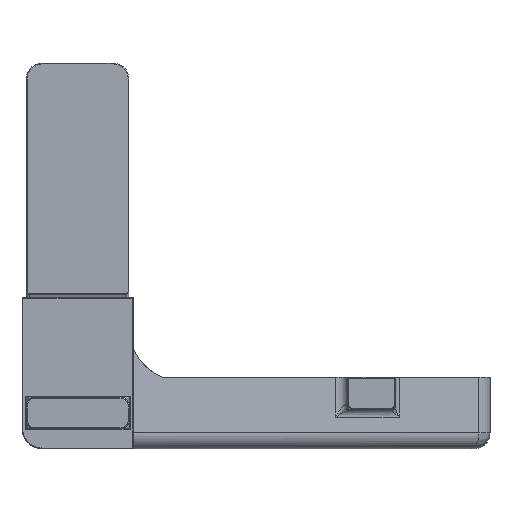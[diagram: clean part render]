
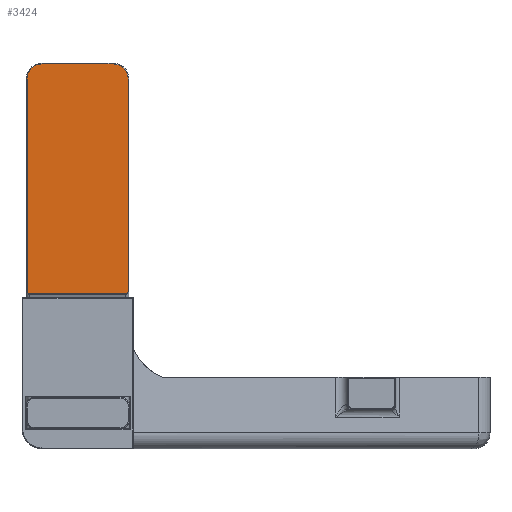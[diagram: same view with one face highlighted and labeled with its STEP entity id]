
A CAD part, front view. The second image highlights one B-rep face of the part: STEP entity #3424.
In plain terms, the highlighted planar face has unit normal (0, -1, 0).
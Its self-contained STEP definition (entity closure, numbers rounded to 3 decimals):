
#144=PLANE('',#3750);
#284=CIRCLE('',#3728,9.5);
#288=CIRCLE('',#3734,9.5);
#603=LINE('',#6029,#947);
#604=LINE('',#6039,#948);
#606=LINE('',#6051,#950);
#614=LINE('',#6089,#958);
#947=VECTOR('',#4588,10.);
#948=VECTOR('',#4601,10.);
#950=VECTOR('',#4617,10.);
#958=VECTOR('',#4649,10.);
#1018=ELLIPSE('',#3743,5.139,2.);
#1023=ELLIPSE('',#3751,5.139,2.);
#1198=FACE_OUTER_BOUND('',#1399,.T.);
#1399=EDGE_LOOP('',(#3108,#3109,#3110,#3111,#3112,#3113,#3114,#3115));
#1722=VERTEX_POINT('',#6026);
#1723=VERTEX_POINT('',#6028);
#1724=VERTEX_POINT('',#6032);
#1726=VERTEX_POINT('',#6038);
#1728=VERTEX_POINT('',#6044);
#1729=VERTEX_POINT('',#6049);
#1732=VERTEX_POINT('',#6063);
#1739=VERTEX_POINT('',#6088);
#2182=EDGE_CURVE('',#1722,#1723,#603,.T.);
#2186=EDGE_CURVE('',#1723,#1724,#284,.T.);
#2187=EDGE_CURVE('',#1724,#1726,#604,.T.);
#2192=EDGE_CURVE('',#1726,#1728,#288,.T.);
#2194=EDGE_CURVE('',#1728,#1729,#606,.T.);
#2200=EDGE_CURVE('',#1729,#1732,#1018,.T.);
#2209=EDGE_CURVE('',#1732,#1739,#614,.T.);
#2211=EDGE_CURVE('',#1739,#1722,#1023,.T.);
#3108=ORIENTED_EDGE('',*,*,#2200,.F.);
#3109=ORIENTED_EDGE('',*,*,#2194,.F.);
#3110=ORIENTED_EDGE('',*,*,#2192,.F.);
#3111=ORIENTED_EDGE('',*,*,#2187,.F.);
#3112=ORIENTED_EDGE('',*,*,#2186,.F.);
#3113=ORIENTED_EDGE('',*,*,#2182,.F.);
#3114=ORIENTED_EDGE('',*,*,#2211,.F.);
#3115=ORIENTED_EDGE('',*,*,#2209,.F.);
#3424=ADVANCED_FACE('',(#1198),#144,.T.);
#3728=AXIS2_PLACEMENT_3D('',#6036,#4597,#4598);
#3734=AXIS2_PLACEMENT_3D('',#6047,#4611,#4612);
#3743=AXIS2_PLACEMENT_3D('',#6064,#4633,#4634);
#3750=AXIS2_PLACEMENT_3D('',#6091,#4652,#4653);
#3751=AXIS2_PLACEMENT_3D('',#6092,#4654,#4655);
#4588=DIRECTION('',(-1.,0.,0.));
#4597=DIRECTION('center_axis',(0.,1.,0.));
#4598=DIRECTION('ref_axis',(-0.707,0.,-0.707));
#4601=DIRECTION('',(0.,0.,1.));
#4611=DIRECTION('center_axis',(0.,1.,0.));
#4612=DIRECTION('ref_axis',(-0.707,0.,0.707));
#4617=DIRECTION('',(1.,0.,0.));
#4633=DIRECTION('center_axis',(0.,1.,0.));
#4634=DIRECTION('ref_axis',(1.,0.,0.));
#4649=DIRECTION('',(0.,0.,-1.));
#4652=DIRECTION('center_axis',(0.,-1.,0.));
#4653=DIRECTION('ref_axis',(-1.,0.,0.));
#4654=DIRECTION('center_axis',(0.,1.,0.));
#4655=DIRECTION('ref_axis',(1.,0.,0.));
#6026=CARTESIAN_POINT('',(-96.606,0.,-64.1));
#6028=CARTESIAN_POINT('',(-230.2,0.,-64.1));
#6029=CARTESIAN_POINT('',(-107.533,0.,-64.1));
#6032=CARTESIAN_POINT('',(-239.7,0.,-54.6));
#6036=CARTESIAN_POINT('Origin',(-230.2,0.,-54.6));
#6038=CARTESIAN_POINT('',(-239.7,0.,-10.));
#6039=CARTESIAN_POINT('',(-239.7,0.,0.));
#6044=CARTESIAN_POINT('',(-230.2,0.,-0.5));
#6047=CARTESIAN_POINT('Origin',(-230.2,0.,-10.));
#6049=CARTESIAN_POINT('',(-96.606,0.,-0.5));
#6051=CARTESIAN_POINT('',(-107.533,0.,-0.5));
#6063=CARTESIAN_POINT('',(-95.367,0.,-1.139));
#6064=CARTESIAN_POINT('Origin',(-100.005,0.,
-2.));
#6088=CARTESIAN_POINT('',(-95.367,0.,-63.461));
#6089=CARTESIAN_POINT('',(-95.367,0.,0.));
#6091=CARTESIAN_POINT('Origin',(-94.867,0.,
0.));
#6092=CARTESIAN_POINT('Origin',(-100.005,0.,
-62.6));
